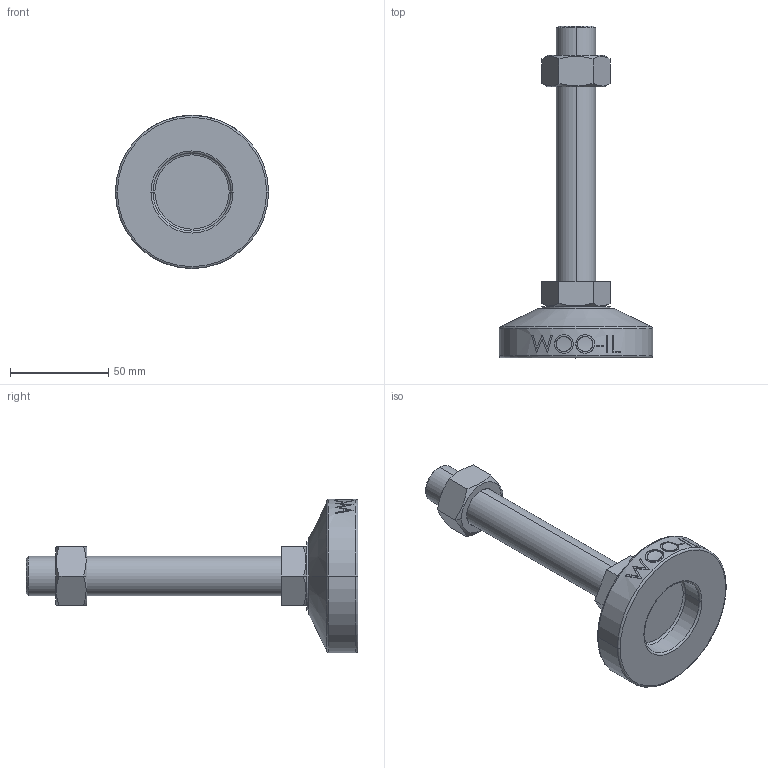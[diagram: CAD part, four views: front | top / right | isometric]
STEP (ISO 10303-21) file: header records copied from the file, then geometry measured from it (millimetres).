
FILE_DESCRIPTION (( 'STEP AP214' ), '1' );
FILE_NAME ('MFZ78-M20-130.step', '2021-01-15T07:08:42', ( '' ), ( '' ), 'SwSTEP 2.0', 'SolidWorks 2019', '' );
FILE_SCHEMA (( 'AUTOMOTIVE_DESIGN' ));
Length unit declared in the file: millimetre
Products named in the file (2): MFZ78-M20-130
Bounding box: 78 x 169 x 78 mm (x, y, z)
Volume: 145272 mm3; surface area: 29503.5 mm2
Topology: 3 solids, 3 shells, 106 faces, 243 edges, 154 vertices
Faces by surface type: plane 48, cylinder 18, bspline 16, cone 14, torus 10
Entity records: 4596 total; most frequent: CARTESIAN_POINT 2253, ORIENTED_EDGE 486, DIRECTION 439, EDGE_CURVE 243, AXIS2_PLACEMENT_3D 170, VERTEX_POINT 154, EDGE_LOOP 119, FACE_OUTER_BOUND 106
